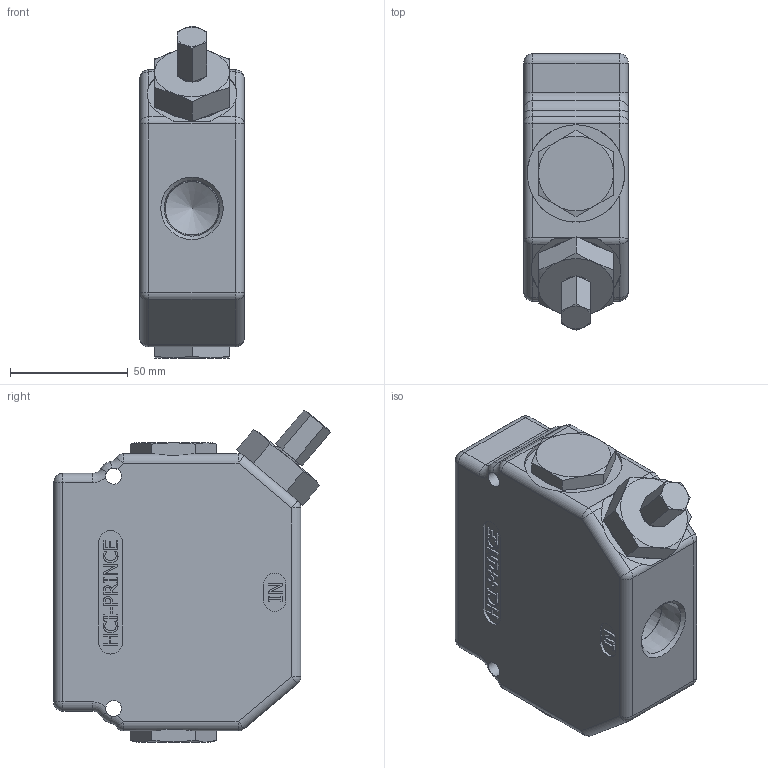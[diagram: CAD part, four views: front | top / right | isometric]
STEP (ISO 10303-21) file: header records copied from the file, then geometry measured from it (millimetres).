
FILE_DESCRIPTION((''),'2;1');
FILE_NAME('C:\Vault\Workspace\z_ShellModels\Misc_RD_RV\RD-575P-30_Shell.stp','2012-03-19T10:56:56',('PetersW'),(''),'Autodesk Inventor 2012','Autodesk Inventor 2012','');
FILE_SCHEMA(('AUTOMOTIVE_DESIGN { 1 0 10303 214 1 1 1 1 }'));
Length unit declared in the file: inch
Products named in the file (1): Part3
Bounding box: 44.45 x 117.3 x 140.71 mm (x, y, z)
Volume: 474788.1 mm3; surface area: 55097 mm2
Topology: 1 solids, 3 shells, 602 faces, 1573 edges, 1019 vertices
Faces by surface type: plane 362, bspline 127, cylinder 51, cone 38, sphere 16, torus 8
Full cylindrical faces by diameter (mm): 6.731 x2, 12.573 x1, 19.558 x2, 22.631 x3, 31.623 x1, 41.275 x2
Entity records: 19343 total; most frequent: CARTESIAN_POINT 5096, ORIENTED_EDGE 3060, DIRECTION 2312, EDGE_CURVE 1530, VECTOR 1032, LINE 1032, VERTEX_POINT 1002, EDGE_LOOP 674
